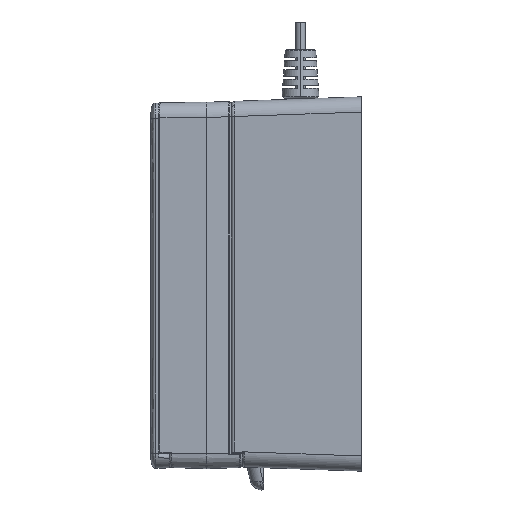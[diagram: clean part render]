
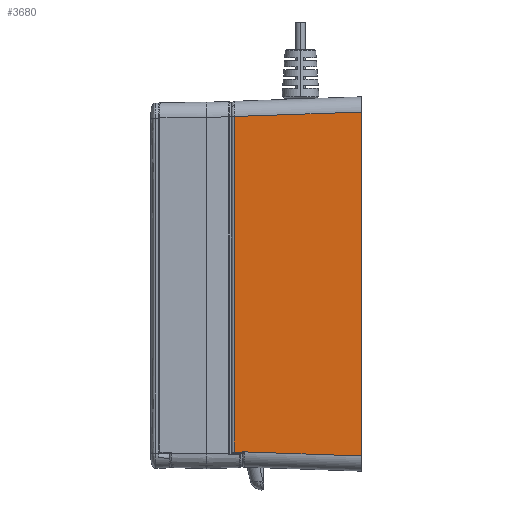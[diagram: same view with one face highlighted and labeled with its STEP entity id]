
A CAD part, left-side view. The second image highlights one B-rep face of the part: STEP entity #3680.
In plain terms, the highlighted planar face has unit normal (-0.999, 0.035, 0).
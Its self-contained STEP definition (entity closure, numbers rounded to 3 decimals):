
#13 = ORIENTED_EDGE ( 'NONE', *, *, #2535, .T. ) ;
#2035 = VERTEX_POINT ( 'NONE', #2329 ) ;
#2329 = CARTESIAN_POINT ( 'NONE',  ( -30.5, 0., 58.005 ) ) ;
#2535 = EDGE_CURVE ( 'NONE', #13241, #2035, #30387, .T. ) ;
#3298 = EDGE_CURVE ( 'NONE', #6570, #21176, #25417, .T. ) ;
#3528 = DIRECTION ( 'NONE',  ( -0.035, -0.999, 0.035 ) ) ;
#3529 = CARTESIAN_POINT ( 'NONE',  ( -29.138, 39., -53.709 ) ) ;
#3680 = ADVANCED_FACE ( 'NONE', ( #20165 ), #22738, .T. ) ;
#3861 = DIRECTION ( 'NONE',  ( -0.999, 0.035, 0. ) ) ;
#4784 = CARTESIAN_POINT ( 'NONE',  ( -29.044, 41.685, -50. ) ) ;
#5064 = VECTOR ( 'NONE', #25145, 1000. ) ;
#5225 = EDGE_CURVE ( 'NONE', #5494, #6570, #8408, .T. ) ;
#5355 = CARTESIAN_POINT ( 'NONE',  ( -29.044, 41.685, 56.549 ) ) ;
#5494 = VERTEX_POINT ( 'NONE', #27990 ) ;
#5962 = CARTESIAN_POINT ( 'NONE',  ( -29.138, 39., -53.664 ) ) ;
#6322 = CARTESIAN_POINT ( 'NONE',  ( -30.5, 0., -55.003 ) ) ;
#6570 = VERTEX_POINT ( 'NONE', #9190 ) ;
#6969 = EDGE_CURVE ( 'NONE', #17410, #2035, #30108, .T. ) ;
#7699 = CARTESIAN_POINT ( 'NONE',  ( -29.076, 40.79, -53.709 ) ) ;
#8203 = EDGE_CURVE ( 'NONE', #5494, #17410, #24847, .T. ) ;
#8408 = B_SPLINE_CURVE_WITH_KNOTS ( 'NONE', 3,
 ( #10078, #7699, #12450, #29128 ),
 .UNSPECIFIED., .F., .F.,
 ( 4, 4 ),
 ( 0., 1. ),
 .UNSPECIFIED. ) ;
#9190 = CARTESIAN_POINT ( 'NONE',  ( -29.138, 39., -53.709 ) ) ;
#10078 = CARTESIAN_POINT ( 'NONE',  ( -29.044, 41.685, -53.709 ) ) ;
#12450 = CARTESIAN_POINT ( 'NONE',  ( -29.107, 39.895, -53.709 ) ) ;
#12761 = ORIENTED_EDGE ( 'NONE', *, *, #29797, .T. ) ;
#13239 = CARTESIAN_POINT ( 'NONE',  ( -30.5, 0., -50. ) ) ;
#13241 = VERTEX_POINT ( 'NONE', #6322 ) ;
#15838 = VECTOR ( 'NONE', #25190, 1000. ) ;
#17410 = VERTEX_POINT ( 'NONE', #5355 ) ;
#17812 = CARTESIAN_POINT ( 'NONE',  ( -29.138, 39., -53.686 ) ) ;
#18099 = CARTESIAN_POINT ( 'NONE',  ( -29.138, 39., -53.641 ) ) ;
#18486 = VECTOR ( 'NONE', #26250, 1000. ) ;
#18859 = ORIENTED_EDGE ( 'NONE', *, *, #3298, .T. ) ;
#20165 = FACE_OUTER_BOUND ( 'NONE', #28624, .T. ) ;
#20527 = DIRECTION ( 'NONE',  ( -0.035, -0.999, 0. ) ) ;
#21176 = VERTEX_POINT ( 'NONE', #29919 ) ;
#22617 = CARTESIAN_POINT ( 'NONE',  ( -30.49, 0.296, 57.995 ) ) ;
#22620 = CARTESIAN_POINT ( 'NONE',  ( -29.138, 39., -53.641 ) ) ;
#22738 = PLANE ( 'NONE',  #28092 ) ;
#24847 = LINE ( 'NONE', #4784, #18486 ) ;
#24964 = ORIENTED_EDGE ( 'NONE', *, *, #8203, .F. ) ;
#25145 = DIRECTION ( 'NONE',  ( 0., 0., 1. ) ) ;
#25190 = DIRECTION ( 'NONE',  ( -0.035, -0.999, -0.035 ) ) ;
#25220 = CARTESIAN_POINT ( 'NONE',  ( -30.5, 0., -50. ) ) ;
#25417 = B_SPLINE_CURVE_WITH_KNOTS ( 'NONE', 3,
 ( #3529, #17812, #5962, #22620 ),
 .UNSPECIFIED., .F., .F.,
 ( 4, 4 ),
 ( 0., 1. ),
 .UNSPECIFIED. ) ;
#25475 = ORIENTED_EDGE ( 'NONE', *, *, #6969, .F. ) ;
#26250 = DIRECTION ( 'NONE',  ( 0., 0., 1. ) ) ;
#27990 = CARTESIAN_POINT ( 'NONE',  ( -29.044, 41.685, -53.709 ) ) ;
#28092 = AXIS2_PLACEMENT_3D ( 'NONE', #25220, #3861, #20527 ) ;
#28624 = EDGE_LOOP ( 'NONE', ( #13, #25475, #24964, #30070, #18859, #12761 ) ) ;
#29128 = CARTESIAN_POINT ( 'NONE',  ( -29.138, 39., -53.709 ) ) ;
#29359 = VECTOR ( 'NONE', #3528, 1000. ) ;
#29797 = EDGE_CURVE ( 'NONE', #21176, #13241, #30703, .T. ) ;
#29919 = CARTESIAN_POINT ( 'NONE',  ( -29.138, 39., -53.641 ) ) ;
#30070 = ORIENTED_EDGE ( 'NONE', *, *, #5225, .T. ) ;
#30108 = LINE ( 'NONE', #22617, #29359 ) ;
#30387 = LINE ( 'NONE', #13239, #5064 ) ;
#30703 = LINE ( 'NONE', #18099, #15838 ) ;
